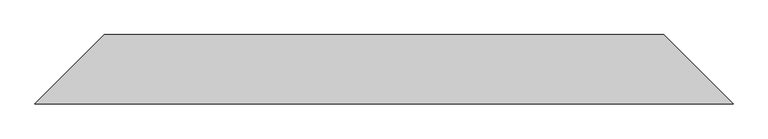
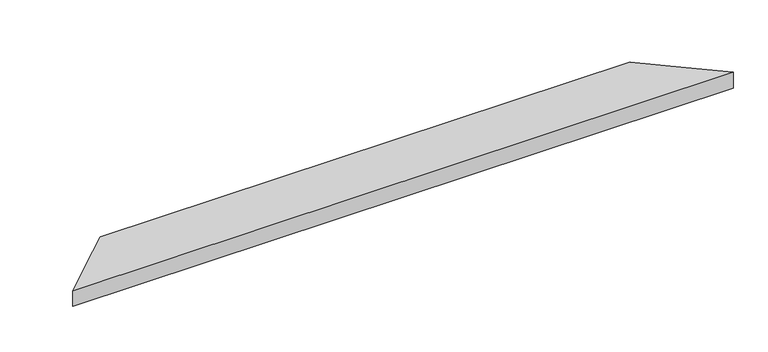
"""IFC4 building model written with IfcOpenShell, lengths in millimetres: proxy geometry, АК5_1 Парапет : АК5_1 Парапет."""

from ifc_helpers import new_model, si_unit, origin, place, context, project, spatial, faceted_brep, source, transform, mapped, element, save


def generic_models_2194bbd3(model_context):
    return source(origin(), model_context, "Body", "Brep", [
        faceted_brep([(-150.0, -150.0, 62.265966), (-150.0, -150.0, -20.4), (3149.0952755, -150.0, -20.4), (3149.0952755, -150.0, 62.265966), (177.1, 177.1, 33.6484242), (0.0, 0.0, 49.1426665), (2999.0952755, 0.0, 49.1426665), (2821.9952755, 177.1, 33.6484242), (177.1, 177.1, -51.4916897), (2821.9952755, 177.1, -51.4916897), (162.9578644, 162.9578644, -37.3495541), (2836.1374111, 162.9578644, -37.3495541), (162.9578644, 162.9578644, -77.3495541), (2836.1374111, 162.9578644, -77.3495541), (160.0, 160.0, -77.3495541), (2839.0952755, 160.0, -77.3495541), (160.0, 160.0, -57.3495541), (2839.0952755, 160.0, -57.3495541), (161.0, 161.0, -57.3495541), (2838.0952755, 161.0, -57.3495541), (161.0, 161.0, -76.3495541), (2838.0952755, 161.0, -76.3495541), (161.9578644, 161.9578644, -76.3495541), (2837.1374111, 161.9578644, -76.3495541), (161.9578644, 161.9578644, -34.9353406), (2837.1374111, 161.9578644, -34.9353406), (176.1, 176.1, -49.0774762), (2822.9952755, 176.1, -49.0774762), (176.1, 176.1, 32.732093), (2822.9952755, 176.1, 32.732093), (0.0, 0.0, 48.1388467), (2999.0952755, 0.0, 48.1388467), (3148.0952755, -149.0, 61.1746575), (-149.0, -149.0, 61.1746575), (-149.0, -149.0, -17.9857864), (3148.0952755, -149.0, -17.9857864), (-133.0294373, -133.0294373, -2.0152237), (3132.1247128, -133.0294373, -2.0152237), (-132.3223305, -132.3223305, -2.7223305), (3131.417606, -132.3223305, -2.7223305)], [[[0, 1, 2, 3]], [[4, 5, 0, 3, 6, 7]], [[8, 4, 7, 9]], [[10, 8, 9, 11]], [[12, 10, 11, 13]], [[14, 12, 13, 15]], [[16, 14, 15, 17]], [[18, 16, 17, 19]], [[20, 18, 19, 21]], [[22, 20, 21, 23]], [[24, 22, 23, 25]], [[26, 24, 25, 27]], [[28, 26, 27, 29]], [[30, 28, 29, 31, 32, 33]], [[34, 33, 32, 35]], [[36, 34, 35, 37]], [[38, 36, 37, 39]], [[1, 38, 39, 2]], [[30, 5, 4, 8, 10, 12, 14, 16, 18, 20, 22, 24, 26, 28]], [[5, 30, 33, 34, 36, 38, 1, 0]], [[6, 31, 29, 27, 25, 23, 21, 19, 17, 15, 13, 11, 9, 7]], [[31, 6, 3, 2, 39, 37, 35, 32]]]),
        faceted_brep([(-148.0, -148.0, -12.5), (-146.0, -146.0, -12.5), (3145.0952755, -146.0, -12.5), (3147.0952755, -148.0, -12.5), (-148.0, -148.0, 60.083349), (3147.0952755, -148.0, 60.083349), (1.5433638, 1.5433638, 47.0), (0.0, 0.0, 47.1350268), (2999.0952755, 0.0, 47.1350268), (2997.5519117, 1.5433638, 47.0), (1.5433638, 1.5433638, 4.0), (2997.5519117, 1.5433638, 4.0), (67.5433638, 67.5433638, 4.0), (2931.5519117, 67.5433638, 4.0), (67.5433638, 67.5433638, 41.2257482), (2931.5519117, 67.5433638, 41.2257482), (114.5464367, 114.5464367, 37.1135122), (2884.5488389, 114.5464367, 37.1135122), (114.3721252, 114.3721252, 35.1211228), (2884.7231503, 114.3721252, 35.1211228), (69.5433638, 69.5433638, 39.0431312), (2929.5519117, 69.5433638, 39.0431312), (69.5433638, 69.5433638, 2.0), (2929.5519117, 69.5433638, 2.0), (0.0, 0.0, 2.0), (2999.0952755, 0.0, 2.0), (2999.5519117, -0.4566362, 2.0), (-0.4566362, -0.4566362, 2.0), (-0.4566362, -0.4566362, 45.1673377), (2999.5519117, -0.4566362, 45.1673377), (-146.0, -146.0, 57.900732), (3145.0952755, -146.0, 57.900732)], [[[0, 1, 2, 3]], [[4, 0, 3, 5]], [[6, 7, 4, 5, 8, 9]], [[10, 6, 9, 11]], [[12, 10, 11, 13]], [[14, 12, 13, 15]], [[16, 14, 15, 17]], [[18, 16, 17, 19]], [[20, 18, 19, 21]], [[22, 20, 21, 23]], [[24, 22, 23, 25, 26, 27]], [[28, 27, 26, 29]], [[30, 28, 29, 31]], [[1, 30, 31, 2]], [[24, 7, 6, 10, 12, 14, 16, 18, 20, 22]], [[7, 24, 27, 28, 30, 1, 0, 4]], [[8, 25, 23, 21, 19, 17, 15, 13, 11, 9]], [[25, 8, 5, 3, 2, 31, 29, 26]]]),
    ])


if __name__ == "__main__":
    model = new_model("IFC4")
    model_context = context("Model", 3, world=origin())
    ifc_project = project(units=[si_unit("LENGTHUNIT", "METRE", prefix="MILLI")], contexts=[model_context])
    site = spatial("IfcSite", under=ifc_project)
    building = spatial("IfcBuilding", under=site)
    placement = place(None, origin())
    generic_models_shape = generic_models_2194bbd3(model_context)
    element("IfcBuildingElementProxy", 1, Name="АК5_1 Парапет : АК5_1 Парапет", ObjectType="АК5_1 Парапет : АК5_1 Парапет", at=placement, inside=building, context=model_context, shape_type="MappedRepresentation", body=[
        mapped(generic_models_shape, transform((0.0, 0.0, 0.0), x_axis=(1.0, 0.0, 0.0), y_axis=(0.0, 1.0, 0.0), z_axis=(0.0, 0.0, 1.0))),
    ])
    save(model, "model.ifc")
